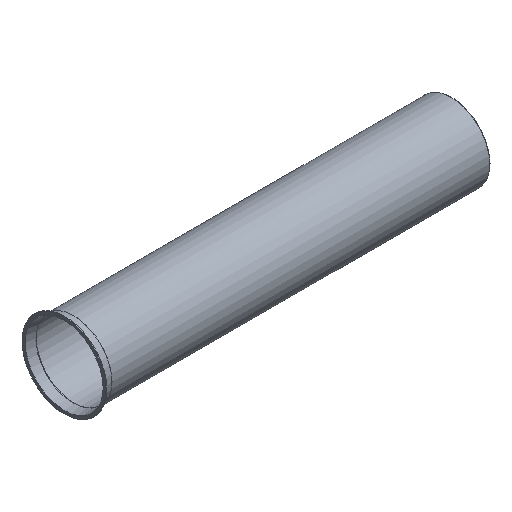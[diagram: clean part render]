
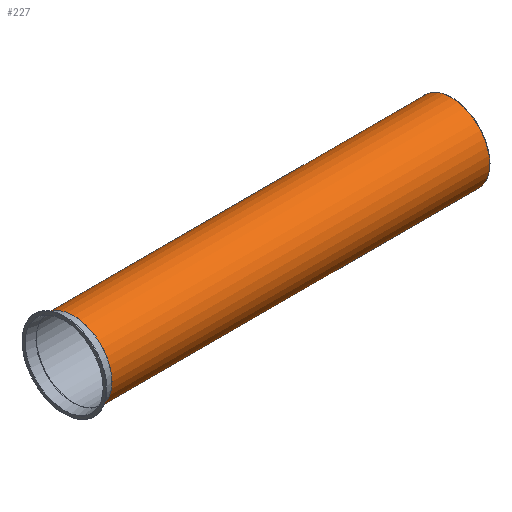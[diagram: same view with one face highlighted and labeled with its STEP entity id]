
A CAD part, isometric view. The second image highlights one B-rep face of the part: STEP entity #227.
In plain terms, the highlighted cylindrical face has radius 97.5 mm (diameter 195 mm), a full revolution.
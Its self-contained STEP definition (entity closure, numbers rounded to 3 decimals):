
#132=CARTESIAN_POINT('',(-2.081,46.834,0.0));
#133=VERTEX_POINT('',#132);
#134=CARTESIAN_POINT('',(-2.081,144.334,0.0));
#135=DIRECTION('',(-1.0,0.0,0.0));
#136=DIRECTION('',(0.0,-1.0,0.0));
#137=AXIS2_PLACEMENT_3D('',#134,#135,#136);
#138=CIRCLE('',#137,97.5);
#139=EDGE_CURVE('',#133,#133,#138,.T.);
#201=CARTESIAN_POINT('',(963.919,46.834,0.0));
#202=VERTEX_POINT('',#201);
#203=CARTESIAN_POINT('',(963.919,144.334,0.0));
#204=DIRECTION('',(-1.0,0.0,0.0));
#205=DIRECTION('',(0.0,-1.0,0.0));
#206=AXIS2_PLACEMENT_3D('',#203,#204,#205);
#207=CIRCLE('',#206,97.5);
#208=EDGE_CURVE('',#202,#202,#207,.T.);
#216=CARTESIAN_POINT('',(480.919,144.334,0.0));
#217=DIRECTION('',(-1.0,0.,0.0));
#218=DIRECTION('',(0.0,-1.0,0.0));
#219=AXIS2_PLACEMENT_3D('',#216,#217,#218);
#220=CYLINDRICAL_SURFACE('',#219,97.5);
#221=ORIENTED_EDGE('',*,*,#139,.F.);
#222=EDGE_LOOP('',(#221));
#223=FACE_OUTER_BOUND('',#222,.T.);
#224=ORIENTED_EDGE('',*,*,#208,.T.);
#225=EDGE_LOOP('',(#224));
#226=FACE_BOUND('',#225,.T.);
#227=ADVANCED_FACE('',(#223,#226),#220,.T.);
